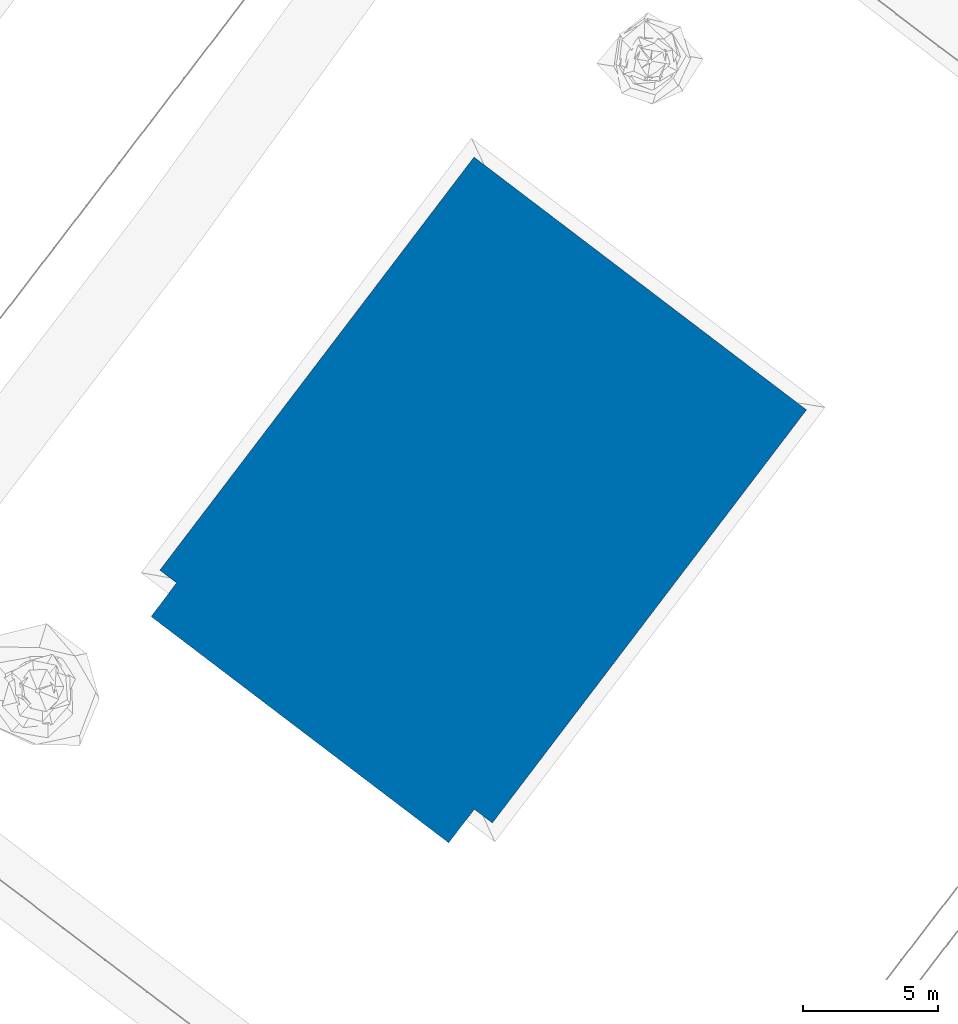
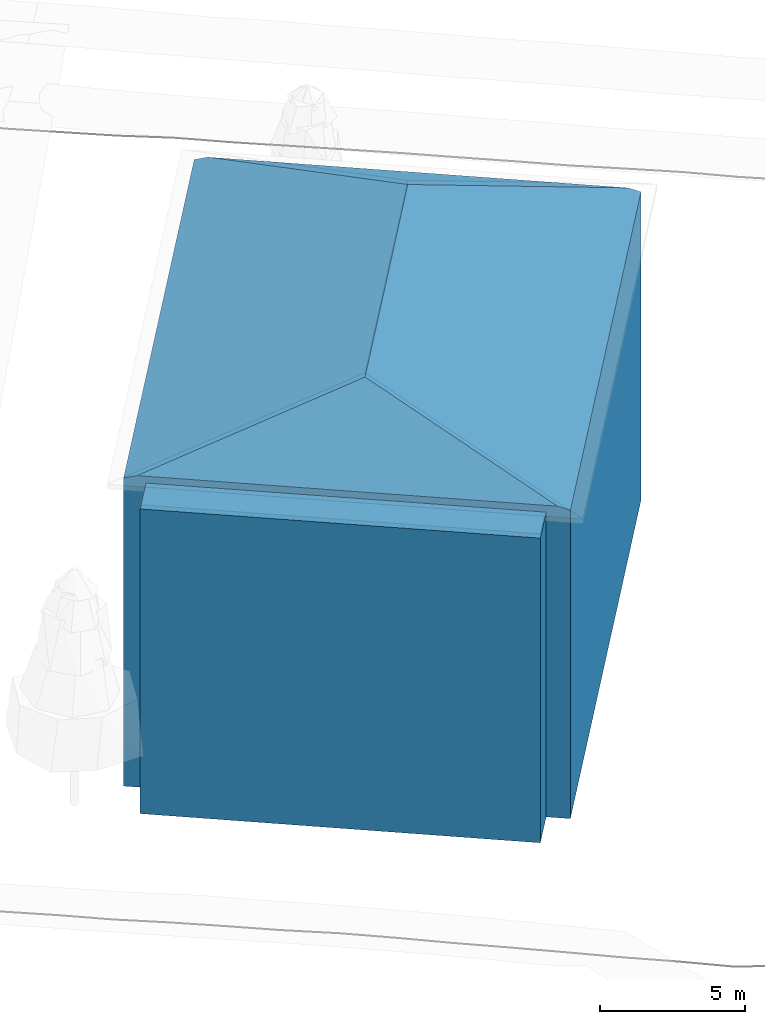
# Not in any storey, part 4 of 88: 1 wall.
"""IFC4 building model written with IfcOpenShell, lengths in metres."""

from ifc_helpers import new_model, si_unit, origin_with_axes, place, context, subcontext, project, spatial, faceted_brep, element, save


model = new_model("IFC4")

# Units and contexts
model_context = context("Model", 3, precision=1e-05, world=origin_with_axes())
body_context = subcontext(model_context, "Body", "Model", "MODEL_VIEW")
ifc_project = project(units=[si_unit("LENGTHUNIT", "METRE"), si_unit("AREAUNIT", "SQUARE_METRE"), si_unit("VOLUMEUNIT", "CUBIC_METRE"), si_unit("PLANEANGLEUNIT", "RADIAN")], contexts=[model_context])

# Sites, building
site_1_placement = place(None, origin_with_axes())
site_1 = spatial("IfcSite", under=ifc_project, at=site_1_placement, Name="CH907857693633", CompositionType="ELEMENT")
site_2_placement = place(None, origin_with_axes())
site_2 = spatial("IfcSite", under=site_1, at=site_2_placement, Name="Buildings", CompositionType="ELEMENT")
building_placement = place(None, origin_with_axes())
building = spatial("IfcBuilding", under=site_2, at=building_placement, Name="Building_6D479F88", CompositionType="ELEMENT")

# Wall
wall_placement = place(building_placement, origin_with_axes())
element("IfcWall", 1, at=wall_placement, inside=building, Name="Building_6D479F88_Wall", PredefinedType="NOTDEFINED", context=body_context, shape_type="Brep", body=[
    faceted_brep([(89.6689999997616, 168.559000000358, 19.9456877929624), (93.0670000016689, 161.190999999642, 17.795787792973), (93.4169999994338, 160.923000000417, 17.6617877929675), (93.0670000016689, 161.190999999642, 17.795787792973), (89.6689999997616, 168.559000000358, 19.9456877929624), (87.2609999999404, 165.603000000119, 17.7937877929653), (105.074999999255, 176.252999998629, 17.6617877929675), (96.714999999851, 177.822999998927, 19.9456877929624), (99.2450000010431, 168.587000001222, 17.6617877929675), (96.714999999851, 177.822999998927, 19.9456877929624), (89.6689999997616, 168.559000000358, 19.9456877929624), (95.0650000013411, 169.372999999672, 18.8037877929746), (96.714999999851, 177.822999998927, 19.9456877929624), (105.074999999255, 176.252999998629, 17.6617877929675), (104.723000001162, 176.517000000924, 17.7937877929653), (93.1149999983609, 185.346999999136, 17.7937877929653), (96.714999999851, 177.822999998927, 19.9456877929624), (98.9189999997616, 180.932999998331, 17.7937877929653), (96.714999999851, 177.822999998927, 19.9456877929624), (93.1149999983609, 185.346999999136, 17.7937877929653), (92.7369999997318, 185.633000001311, 17.6558877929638), (81.0789999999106, 170.302999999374, 17.6558877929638), (89.6689999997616, 168.559000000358, 19.9456877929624), (86.9090000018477, 177.969000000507, 17.6558877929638), (89.6689999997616, 168.559000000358, 19.9456877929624), (96.714999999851, 177.822999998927, 19.9456877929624), (91.2030000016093, 177.096999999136, 18.7997877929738), (89.6689999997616, 168.559000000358, 19.9456877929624), (81.0789999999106, 170.302999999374, 17.6558877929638), (81.4549999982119, 170.019000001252, 17.7938877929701), (99.2450000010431, 168.587000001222, 11.1862877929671), (105.074999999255, 176.252999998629, 4.71278779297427), (105.074999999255, 176.252999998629, 11.1862877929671), (105.074999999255, 176.252999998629, 17.6617877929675), (99.2450000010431, 168.587000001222, 17.6617877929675), (99.2450000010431, 168.587000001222, 11.1862877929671), (105.074999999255, 176.252999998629, 4.71278779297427), (99.2450000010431, 168.587000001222, 11.1862877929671), (99.2450000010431, 168.587000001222, 4.71288779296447), (93.4169999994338, 160.923000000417, 4.71288779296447), (99.2450000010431, 168.587000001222, 4.71288779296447), (99.2450000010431, 168.587000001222, 11.1862877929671), (99.2450000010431, 168.587000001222, 11.1862877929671), (93.4169999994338, 160.923000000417, 17.6617877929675), (93.4169999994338, 160.923000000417, 11.1863877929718), (93.4169999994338, 160.923000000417, 17.6617877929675), (99.2450000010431, 168.587000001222, 11.1862877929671), (99.2450000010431, 168.587000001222, 17.6617877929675), (99.2450000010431, 168.587000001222, 11.1862877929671), (105.074999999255, 176.252999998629, 11.1862877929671), (105.074999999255, 176.252999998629, 17.6617877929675), (99.2450000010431, 168.587000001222, 11.1862877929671), (93.4169999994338, 160.923000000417, 11.1863877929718), (93.4169999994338, 160.923000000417, 4.71288779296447), (104.723000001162, 176.517000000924, 17.7937877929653), (105.074999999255, 176.252999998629, 17.6617877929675), (104.899000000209, 176.385000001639, 11.2522877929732), (92.7369999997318, 185.633000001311, 4.71288779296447), (99.0949999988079, 180.798999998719, 11.2522877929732), (98.9050000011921, 180.94299999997, 4.71288779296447), (104.723000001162, 176.517000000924, 17.7937877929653), (99.0949999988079, 180.798999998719, 11.2522877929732), (98.9189999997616, 180.932999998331, 17.7937877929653), (92.7369999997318, 185.633000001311, 4.71288779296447), (92.7369999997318, 185.633000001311, 11.1843877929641), (92.9250000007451, 185.491000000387, 11.2523877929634), (92.7369999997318, 185.633000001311, 17.6558877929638), (92.9250000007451, 185.491000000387, 11.2523877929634), (92.7369999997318, 185.633000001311, 11.1843877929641), (86.9090000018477, 177.969000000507, 11.1843877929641), (92.7369999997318, 185.633000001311, 4.71288779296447), (86.9090000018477, 177.969000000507, 4.71288779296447), (92.7369999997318, 185.633000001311, 4.71288779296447), (86.9090000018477, 177.969000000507, 11.1843877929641), (92.7369999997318, 185.633000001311, 11.1843877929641), (92.7369999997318, 185.633000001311, 11.1843877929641), (86.9090000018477, 177.969000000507, 11.1843877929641), (92.7369999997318, 185.633000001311, 17.6558877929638), (86.9090000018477, 177.969000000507, 17.6558877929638), (92.7369999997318, 185.633000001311, 17.6558877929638), (86.9090000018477, 177.969000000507, 11.1843877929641), (81.0789999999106, 170.302999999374, 11.1843877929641), (86.9090000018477, 177.969000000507, 11.1843877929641), (81.0789999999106, 170.302999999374, 4.71288779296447), (81.0789999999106, 170.302999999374, 17.6558877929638), (86.9090000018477, 177.969000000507, 11.1843877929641), (81.0789999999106, 170.302999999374, 11.1843877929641), (86.9090000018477, 177.969000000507, 4.71288779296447), (81.0789999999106, 170.302999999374, 4.71288779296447), (86.9090000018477, 177.969000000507, 11.1843877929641), (86.9090000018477, 177.969000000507, 11.1843877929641), (81.0789999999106, 170.302999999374, 17.6558877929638), (86.9090000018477, 177.969000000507, 17.6558877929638), (93.4169999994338, 160.923000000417, 17.6617877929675), (93.0670000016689, 161.190999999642, 17.795787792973), (92.7490000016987, 161.431000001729, 17.5118877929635), (93.4169999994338, 160.923000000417, 11.1863877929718), (92.7490000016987, 161.431000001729, 17.5118877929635), (93.0830000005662, 161.177000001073, 11.112387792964), (92.7490000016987, 161.431000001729, 17.5118877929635), (93.4169999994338, 160.923000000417, 11.1863877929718), (93.4169999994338, 160.923000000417, 17.6617877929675), (93.0830000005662, 161.177000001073, 11.112387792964), (93.4169999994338, 160.923000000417, 4.71288779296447), (93.4169999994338, 160.923000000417, 11.1863877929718), (92.7490000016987, 161.431000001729, 17.5118877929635), (87.2609999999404, 165.603000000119, 17.7937877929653), (87.1030000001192, 165.72500000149, 17.6538877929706), (81.4549999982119, 170.019000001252, 17.7938877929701), (81.0789999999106, 170.302999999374, 17.6558877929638), (81.6990000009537, 169.831000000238, 17.5118877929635), (81.4549999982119, 170.019000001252, 17.7938877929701), (81.6990000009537, 169.831000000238, 17.5118877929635), (87.1030000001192, 165.72500000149, 17.6538877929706), (81.0789999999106, 170.302999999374, 11.1843877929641), (81.3889999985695, 170.067000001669, 11.112387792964), (81.6990000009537, 169.831000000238, 17.5118877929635), (81.6990000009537, 169.831000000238, 11.112387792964), (81.6990000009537, 169.831000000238, 17.5118877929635), (81.3889999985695, 170.067000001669, 11.112387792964), (81.3889999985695, 170.067000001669, 11.112387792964), (81.0789999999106, 170.302999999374, 11.1843877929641), (81.0789999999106, 170.302999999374, 4.71288779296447), (81.3889999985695, 170.067000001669, 11.112387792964), (81.6990000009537, 169.831000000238, 4.71288779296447), (81.6990000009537, 169.831000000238, 11.112387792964), (81.6990000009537, 169.831000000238, 17.5118877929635), (81.0789999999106, 170.302999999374, 17.6558877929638), (81.0789999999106, 170.302999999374, 11.1843877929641), (81.6990000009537, 169.831000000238, 4.71288779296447), (81.3889999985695, 170.067000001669, 11.112387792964), (81.0789999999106, 170.302999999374, 4.71288779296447), (93.4169999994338, 160.923000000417, 4.71288779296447), (93.0830000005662, 161.177000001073, 11.112387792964), (92.7490000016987, 161.431000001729, 4.71088779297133), (93.0830000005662, 161.177000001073, 11.112387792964), (92.7490000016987, 161.431000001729, 17.5118877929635), (92.7490000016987, 161.431000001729, 11.112387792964), (92.7490000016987, 161.431000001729, 11.112387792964), (92.7490000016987, 161.431000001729, 4.71088779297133), (93.0830000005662, 161.177000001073, 11.112387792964), (92.7490000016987, 161.431000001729, 4.71088779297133), (92.7450000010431, 167.480999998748, 4.71288779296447), (98.9109999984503, 168.840999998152, 4.71288779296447), (93.4169999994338, 160.923000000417, 4.71288779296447), (92.7490000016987, 161.431000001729, 4.71088779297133), (98.9109999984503, 168.840999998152, 4.71288779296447), (98.9090000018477, 174.892999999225, 4.71288779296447), (98.9050000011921, 180.94299999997, 4.71288779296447), (105.074999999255, 176.252999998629, 4.71278779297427), (87.2250000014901, 165.631000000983, 4.71288779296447), (92.7490000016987, 161.431000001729, 4.71088779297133), (86.7490000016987, 165.006999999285, 4.71288779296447), (86.7490000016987, 165.006999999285, 4.71288779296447), (91.7969999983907, 160.182999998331, 4.71288779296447), (86.2729999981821, 164.383000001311, 4.71288779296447), (92.7369999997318, 185.633000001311, 4.71288779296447), (92.7390000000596, 179.583000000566, 4.71288779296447), (87.2190000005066, 177.732999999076, 4.71288779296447), (92.7430000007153, 173.532999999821, 4.71288779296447), (92.7450000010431, 167.480999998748, 4.71288779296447), (87.2250000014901, 165.631000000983, 4.71288779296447), (92.7390000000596, 179.583000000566, 4.71288779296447), (92.7430000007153, 173.532999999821, 4.71288779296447), (87.2190000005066, 177.732999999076, 4.71288779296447), (92.7430000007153, 173.532999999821, 4.71288779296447), (92.7390000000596, 179.583000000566, 4.71288779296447), (98.9050000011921, 180.94299999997, 4.71288779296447), (81.6990000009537, 169.831000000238, 4.71288779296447), (86.7490000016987, 165.006999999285, 4.71288779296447), (80.7509999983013, 168.583000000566, 4.71288779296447), (87.2250000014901, 165.631000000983, 4.71288779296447), (81.6990000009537, 169.831000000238, 4.71288779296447), (92.7430000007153, 173.532999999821, 4.71288779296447), (98.9109999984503, 168.840999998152, 4.71288779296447), (98.9090000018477, 174.892999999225, 4.71288779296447), (105.074999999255, 176.252999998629, 4.71278779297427), (98.9050000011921, 180.94299999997, 4.71288779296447), (98.9090000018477, 174.892999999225, 4.71288779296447), (92.7430000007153, 173.532999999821, 4.71288779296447), (98.9090000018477, 174.892999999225, 4.71288779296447), (98.9109999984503, 168.840999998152, 4.71288779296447), (92.7430000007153, 173.532999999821, 4.71288779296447), (92.7450000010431, 167.480999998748, 4.71288779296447), (92.7430000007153, 173.532999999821, 4.71288779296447), (98.9109999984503, 168.840999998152, 4.71288779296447), (92.7390000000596, 179.583000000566, 4.71288779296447), (92.7369999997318, 185.633000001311, 4.71288779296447), (98.9050000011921, 180.94299999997, 4.71288779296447), (86.7490000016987, 165.006999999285, 4.71288779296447), (81.6990000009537, 169.831000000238, 4.71288779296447), (87.2250000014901, 165.631000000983, 4.71288779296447), (81.6990000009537, 169.831000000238, 4.71288779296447), (81.0789999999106, 170.302999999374, 4.71288779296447), (87.2190000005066, 177.732999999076, 4.71288779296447), (92.7450000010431, 167.480999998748, 4.71288779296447), (92.7490000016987, 161.431000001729, 4.71088779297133), (87.2250000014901, 165.631000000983, 4.71288779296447), (91.7969999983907, 160.182999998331, 4.71288779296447), (86.7490000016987, 165.006999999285, 4.71288779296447), (92.7490000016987, 161.431000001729, 4.71088779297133), (87.2190000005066, 177.732999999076, 4.71288779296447), (86.9090000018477, 177.969000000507, 4.71288779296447), (92.7369999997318, 185.633000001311, 4.71288779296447), (99.2450000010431, 168.587000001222, 4.71288779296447), (98.9109999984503, 168.840999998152, 4.71288779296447), (105.074999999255, 176.252999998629, 4.71278779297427), (87.2190000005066, 177.732999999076, 4.71288779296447), (92.7430000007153, 173.532999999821, 4.71288779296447), (81.6990000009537, 169.831000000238, 4.71288779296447), (86.9090000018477, 177.969000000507, 4.71288779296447), (87.2190000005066, 177.732999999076, 4.71288779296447), (81.0789999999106, 170.302999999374, 4.71288779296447), (98.9109999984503, 168.840999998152, 4.71288779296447), (99.2450000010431, 168.587000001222, 4.71288779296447), (93.4169999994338, 160.923000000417, 4.71288779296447), (86.2729999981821, 164.383000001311, 4.71288779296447), (80.7509999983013, 168.583000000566, 4.71288779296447), (86.7490000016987, 165.006999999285, 4.71288779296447), (80.7509999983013, 168.583000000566, 17.5118877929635), (86.2729999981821, 164.383000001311, 17.5118877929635), (86.7490000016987, 165.006999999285, 17.5118877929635), (92.7490000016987, 161.431000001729, 17.5118877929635), (87.2250000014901, 165.631000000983, 17.5118877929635), (86.7490000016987, 165.006999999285, 17.5118877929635), (81.6990000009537, 169.831000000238, 17.5118877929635), (86.7490000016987, 165.006999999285, 17.5118877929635), (87.2250000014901, 165.631000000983, 17.5118877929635), (86.7490000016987, 165.006999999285, 17.5118877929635), (91.7969999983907, 160.182999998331, 17.5118877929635), (92.7490000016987, 161.431000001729, 17.5118877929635), (91.7969999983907, 160.182999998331, 17.5118877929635), (86.7490000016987, 165.006999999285, 17.5118877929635), (86.2729999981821, 164.383000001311, 17.5118877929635), (86.7490000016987, 165.006999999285, 17.5118877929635), (81.6990000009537, 169.831000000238, 17.5118877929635), (80.7509999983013, 168.583000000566, 17.5118877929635), (92.2729999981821, 160.80700000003, 11.112387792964), (92.7490000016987, 161.431000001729, 4.71088779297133), (92.7490000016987, 161.431000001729, 11.112387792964), (92.2729999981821, 160.80700000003, 11.112387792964), (92.7490000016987, 161.431000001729, 11.112387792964), (92.7490000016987, 161.431000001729, 17.5118877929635), (92.2729999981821, 160.80700000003, 11.112387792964), (91.7969999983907, 160.182999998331, 11.112387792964), (91.7969999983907, 160.182999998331, 4.71288779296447), (92.2729999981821, 160.80700000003, 11.112387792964), (91.7969999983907, 160.182999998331, 17.5118877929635), (91.7969999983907, 160.182999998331, 11.112387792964), (80.7509999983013, 168.583000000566, 11.112387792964), (81.2250000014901, 169.20699999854, 11.112387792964), (80.7509999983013, 168.583000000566, 4.71288779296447), (81.2250000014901, 169.20699999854, 11.112387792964), (80.7509999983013, 168.583000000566, 17.5118877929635), (81.6990000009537, 169.831000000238, 17.5118877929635), (81.6990000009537, 169.831000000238, 4.71288779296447), (81.2250000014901, 169.20699999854, 11.112387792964), (81.6990000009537, 169.831000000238, 11.112387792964), (81.6990000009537, 169.831000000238, 11.112387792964), (81.2250000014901, 169.20699999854, 11.112387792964), (81.6990000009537, 169.831000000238, 17.5118877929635), (80.7509999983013, 168.583000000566, 17.5118877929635), (81.2250000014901, 169.20699999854, 11.112387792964), (80.7509999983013, 168.583000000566, 11.112387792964), (81.2250000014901, 169.20699999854, 11.112387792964), (81.6990000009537, 169.831000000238, 4.71288779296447), (80.7509999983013, 168.583000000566, 4.71288779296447), (86.2729999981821, 164.383000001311, 4.71288779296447), (86.2729999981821, 164.383000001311, 11.112387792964), (80.7509999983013, 168.583000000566, 4.71288779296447), (80.7509999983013, 168.583000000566, 11.112387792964), (80.7509999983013, 168.583000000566, 4.71288779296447), (86.2729999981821, 164.383000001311, 11.112387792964), (86.2729999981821, 164.383000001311, 11.112387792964), (91.7969999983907, 160.182999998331, 4.71288779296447), (91.7969999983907, 160.182999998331, 11.112387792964), (86.2729999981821, 164.383000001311, 11.112387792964), (80.7509999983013, 168.583000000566, 17.5118877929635), (80.7509999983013, 168.583000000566, 11.112387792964), (91.7969999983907, 160.182999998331, 11.112387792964), (91.7969999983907, 160.182999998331, 17.5118877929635), (86.2729999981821, 164.383000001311, 11.112387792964), (86.2729999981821, 164.383000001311, 17.5118877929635), (86.2729999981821, 164.383000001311, 11.112387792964), (91.7969999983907, 160.182999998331, 17.5118877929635), (80.7509999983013, 168.583000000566, 17.5118877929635), (86.2729999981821, 164.383000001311, 11.112387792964), (86.2729999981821, 164.383000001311, 17.5118877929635), (91.7969999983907, 160.182999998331, 4.71288779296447), (86.2729999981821, 164.383000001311, 11.112387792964), (86.2729999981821, 164.383000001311, 4.71288779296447), (93.1149999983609, 185.346999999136, 17.7937877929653), (99.0949999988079, 180.798999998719, 11.2522877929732), (92.9250000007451, 185.491000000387, 11.2523877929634), (105.074999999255, 176.252999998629, 4.71278779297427), (99.0949999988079, 180.798999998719, 11.2522877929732), (104.899000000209, 176.385000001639, 11.2522877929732), (92.7369999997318, 185.633000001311, 17.6558877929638), (86.9090000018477, 177.969000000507, 17.6558877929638), (91.2030000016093, 177.096999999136, 18.7997877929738), (93.4169999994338, 160.923000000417, 17.6617877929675), (99.2450000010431, 168.587000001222, 17.6617877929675), (95.0650000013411, 169.372999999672, 18.8037877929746), (86.9090000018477, 177.969000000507, 17.6558877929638), (89.6689999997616, 168.559000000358, 19.9456877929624), (91.2030000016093, 177.096999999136, 18.7997877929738), (96.714999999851, 177.822999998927, 19.9456877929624), (92.7369999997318, 185.633000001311, 17.6558877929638), (91.2030000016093, 177.096999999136, 18.7997877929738), (99.2450000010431, 168.587000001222, 17.6617877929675), (96.714999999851, 177.822999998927, 19.9456877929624), (95.0650000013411, 169.372999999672, 18.8037877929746), (89.6689999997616, 168.559000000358, 19.9456877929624), (93.4169999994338, 160.923000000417, 17.6617877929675), (95.0650000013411, 169.372999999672, 18.8037877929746), (99.0949999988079, 180.798999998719, 11.2522877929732), (105.074999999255, 176.252999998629, 4.71278779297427), (98.9050000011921, 180.94299999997, 4.71288779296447), (96.714999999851, 177.822999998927, 19.9456877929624), (104.723000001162, 176.517000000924, 17.7937877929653), (98.9189999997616, 180.932999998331, 17.7937877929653), (99.0949999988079, 180.798999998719, 11.2522877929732), (93.1149999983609, 185.346999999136, 17.7937877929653), (98.9189999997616, 180.932999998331, 17.7937877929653), (89.6689999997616, 168.559000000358, 19.9456877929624), (81.4549999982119, 170.019000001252, 17.7938877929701), (87.2609999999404, 165.603000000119, 17.7937877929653), (92.7490000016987, 161.431000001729, 17.5118877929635), (93.0670000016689, 161.190999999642, 17.795787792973), (87.2609999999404, 165.603000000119, 17.7937877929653), (87.2609999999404, 165.603000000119, 17.7937877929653), (81.4549999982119, 170.019000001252, 17.7938877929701), (87.1030000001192, 165.72500000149, 17.6538877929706), (92.7490000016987, 161.431000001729, 17.5118877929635), (87.1030000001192, 165.72500000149, 17.6538877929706), (87.2250000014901, 165.631000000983, 17.5118877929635), (87.1030000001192, 165.72500000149, 17.6538877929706), (81.6990000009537, 169.831000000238, 17.5118877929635), (87.2250000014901, 165.631000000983, 17.5118877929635), (99.0949999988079, 180.798999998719, 11.2522877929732), (92.7369999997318, 185.633000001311, 4.71288779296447), (92.9250000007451, 185.491000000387, 11.2523877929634), (92.7369999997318, 185.633000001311, 17.6558877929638), (93.1149999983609, 185.346999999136, 17.7937877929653), (92.9250000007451, 185.491000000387, 11.2523877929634), (104.899000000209, 176.385000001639, 11.2522877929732), (105.074999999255, 176.252999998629, 11.1862877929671), (105.074999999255, 176.252999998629, 4.71278779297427), (105.074999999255, 176.252999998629, 11.1862877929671), (104.899000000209, 176.385000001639, 11.2522877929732), (105.074999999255, 176.252999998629, 17.6617877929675), (99.0949999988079, 180.798999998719, 11.2522877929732), (104.723000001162, 176.517000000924, 17.7937877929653), (104.899000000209, 176.385000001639, 11.2522877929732), (92.7490000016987, 161.431000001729, 17.5118877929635), (91.7969999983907, 160.182999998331, 17.5118877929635), (92.2729999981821, 160.80700000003, 11.112387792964), (91.7969999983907, 160.182999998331, 4.71288779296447), (92.7490000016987, 161.431000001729, 4.71088779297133), (92.2729999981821, 160.80700000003, 11.112387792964)], [[[0, 1, 2]], [[3, 4, 5]], [[6, 7, 8]], [[9, 10, 11]], [[12, 13, 14]], [[15, 16, 17]], [[18, 19, 20]], [[21, 22, 23]], [[24, 25, 26]], [[27, 28, 29]], [[30, 31, 32]], [[33, 34, 35]], [[36, 37, 38]], [[39, 40, 41]], [[42, 43, 44]], [[45, 46, 47]], [[48, 49, 50]], [[51, 52, 53]], [[54, 55, 56]], [[57, 58, 59]], [[60, 61, 62]], [[63, 64, 65]], [[66, 67, 68]], [[69, 70, 71]], [[72, 73, 74]], [[75, 76, 77]], [[78, 79, 80]], [[81, 82, 83]], [[84, 85, 86]], [[87, 88, 89]], [[90, 91, 92]], [[93, 94, 95]], [[96, 97, 98]], [[99, 100, 101]], [[102, 103, 104]], [[105, 106, 107]], [[108, 109, 110]], [[111, 112, 113]], [[114, 115, 116]], [[117, 118, 119]], [[120, 121, 122]], [[123, 124, 125]], [[126, 127, 128]], [[129, 130, 131]], [[132, 133, 134]], [[135, 136, 137]], [[138, 139, 140]], [[141, 142, 143]], [[144, 145, 146]], [[147, 148, 149]], [[150, 151, 152]], [[153, 154, 155]], [[156, 157, 158]], [[159, 160, 161]], [[162, 163, 164]], [[165, 166, 167]], [[168, 169, 170]], [[171, 172, 173]], [[174, 175, 176]], [[177, 178, 179]], [[180, 181, 182]], [[183, 184, 185]], [[186, 187, 188]], [[189, 190, 191]], [[192, 193, 194]], [[195, 196, 197]], [[198, 199, 200]], [[201, 202, 203]], [[204, 205, 206]], [[207, 208, 209]], [[210, 211, 212]], [[213, 214, 215]], [[216, 217, 218]], [[219, 220, 221]], [[222, 223, 224]], [[225, 226, 227]], [[228, 229, 230]], [[231, 232, 233]], [[234, 235, 236]], [[237, 238, 239]], [[240, 241, 242]], [[243, 244, 245]], [[246, 247, 248]], [[249, 250, 251]], [[252, 253, 254]], [[255, 256, 257]], [[258, 259, 260]], [[261, 262, 263]], [[264, 265, 266]], [[267, 268, 269]], [[270, 271, 272]], [[273, 274, 275]], [[276, 277, 278]], [[279, 280, 281]], [[282, 283, 284]], [[285, 286, 287]], [[288, 289, 290]], [[291, 292, 293]], [[294, 295, 296]], [[297, 298, 299]], [[300, 301, 302]], [[303, 304, 305]], [[306, 307, 308]], [[309, 310, 311]], [[312, 313, 314]], [[315, 316, 317]], [[318, 319, 320]], [[321, 322, 323]], [[324, 325, 326]], [[327, 328, 329]], [[330, 331, 332]], [[333, 334, 335]], [[336, 337, 338]], [[339, 340, 341]], [[342, 343, 344]], [[345, 346, 347]], [[348, 349, 350]], [[351, 352, 353]], [[354, 355, 356]], [[357, 358, 359]]]),
])

save(model, "model.ifc")
